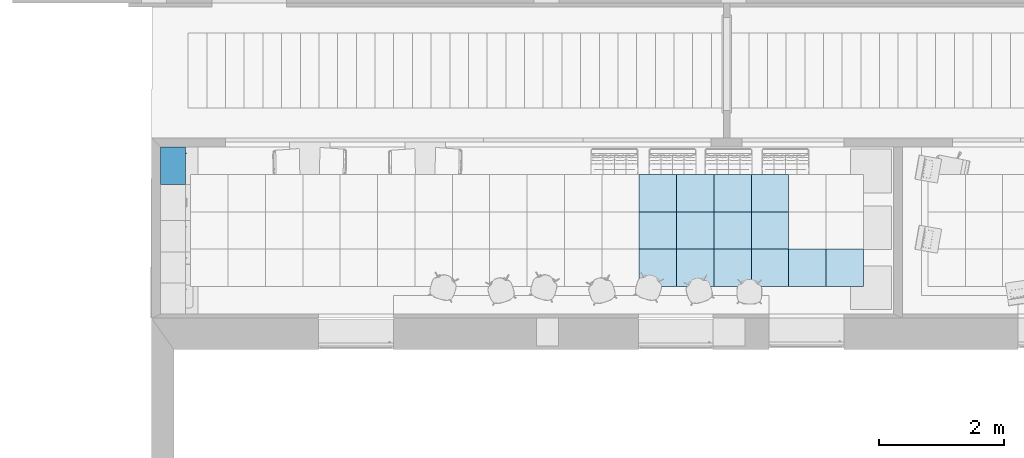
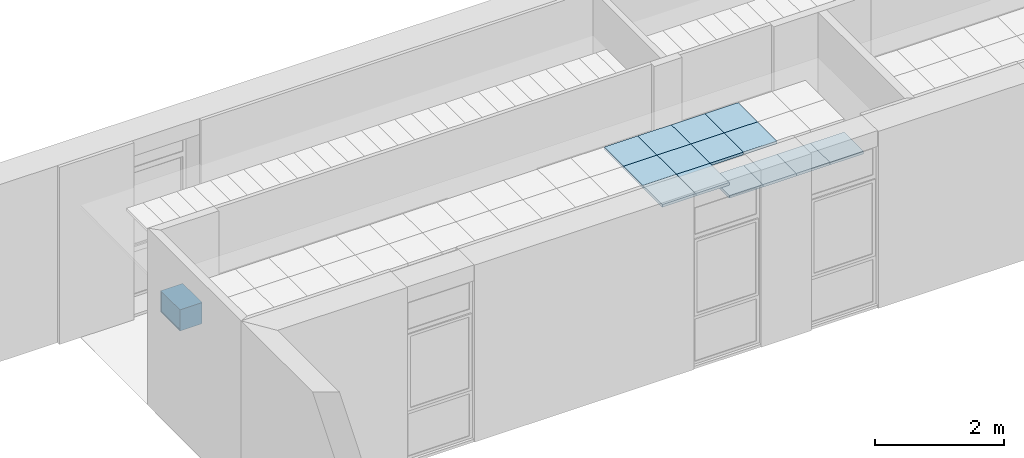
# One storey, part 19 of 68: 15 slabs.
"""IFC2X3 building model written with IfcOpenShell, lengths in millimetres."""

from ifc_helpers import new_model, entity, si_unit, converted_unit, derived_unit, money_unit, direction, frame, origin_with_axes, place, context, subcontext, project, spatial, polyline, outline, extrude, faceted_brep, source, transform, mapped, material, layer, layer_set, layer_usage, type_object, element, save


model = new_model("IFC2X3")

# Units and contexts
model_context = context("Model", 3, precision=0.01, world=origin_with_axes(), true_north=direction((0.0, 1.0)))
body_context = subcontext(model_context, "Body", "Model", "MODEL_VIEW")
ifc_project = project(units=[si_unit("LENGTHUNIT", "METRE", prefix="MILLI"), si_unit("AREAUNIT", "SQUARE_METRE"), si_unit("VOLUMEUNIT", "CUBIC_METRE"), converted_unit("PLANEANGLEUNIT", "DEGREE", entity("IfcPlaneAngleMeasure", 0.0174532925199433), si_unit("PLANEANGLEUNIT", "RADIAN"), dimensions=[0, 0, 0, 0, 0, 0, 0]), money_unit("USD"), converted_unit("TIMEUNIT", "Year", entity("IfcTimeMeasure", 31557600.0), si_unit("TIMEUNIT", "SECOND"), dimensions=[0, 0, 1, 0, 0, 0, 0]), si_unit("MASSUNIT", "GRAM", prefix="KILO"), si_unit("THERMODYNAMICTEMPERATUREUNIT", "DEGREE_CELSIUS"), si_unit("LUMINOUSINTENSITYUNIT", "LUMEN"), si_unit("ENERGYUNIT", "JOULE", prefix="MEGA"), derived_unit("THERMALCONDUCTANCEUNIT", [(si_unit("POWERUNIT", "WATT"), 1), (si_unit("LENGTHUNIT", "METRE"), -1), (si_unit("THERMODYNAMICTEMPERATUREUNIT", "KELVIN"), -1)]), derived_unit("SPECIFICHEATCAPACITYUNIT", [(si_unit("ENERGYUNIT", "JOULE"), 1), (si_unit("MASSUNIT", "GRAM", prefix="KILO"), -1), (si_unit("THERMODYNAMICTEMPERATUREUNIT", "KELVIN"), -1)]), derived_unit("MASSDENSITYUNIT", [(si_unit("MASSUNIT", "GRAM", prefix="KILO"), 1), (si_unit("VOLUMEUNIT", "CUBIC_METRE"), -1)])], contexts=[model_context])

# Site, building, storey
site_placement = place(None, origin_with_axes())
site = spatial("IfcSite", under=ifc_project, at=site_placement, Name="Sitio", CompositionType="ELEMENT")
building_placement = place(site_placement, origin_with_axes())
building = spatial("IfcBuilding", under=site, at=building_placement, Name="Construcción", CompositionType="ELEMENT")
storey_placement = place(building_placement, origin_with_axes())
storey = spatial("IfcBuildingStorey", under=building, at=storey_placement, Name="PLANTA 1ª", CompositionType="ELEMENT", Elevation=0.0)

# Slabs
slab_type_1 = type_object("IfcSlabType", Name="Armario Mural 27", PredefinedType="FLOOR")
shared_shape = source(origin_with_axes(), body_context, "Body", "Brep", [
    faceted_brep([(501.8682408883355, -397.999999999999, 1752.799038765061), (502.7101007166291, -397.999999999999, 1752.573463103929), (503.5000000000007, -397.999999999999, 1752.205127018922), (504.2139380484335, -397.999999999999, 1751.705222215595), (504.8302222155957, -397.999999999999, 1751.088938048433), (505.330127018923, -397.999999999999, 1750.375), (505.6984631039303, -397.999999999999, 1749.585100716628), (505.9240387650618, -397.999999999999, 1748.743240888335), (506.0000000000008, -397.999999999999, 1747.875), (505.9240387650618, -397.999999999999, 1747.006759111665), (505.6984631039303, -397.999999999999, 1746.164899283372), (505.330127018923, -397.999999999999, 1745.375), (504.8302222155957, -397.999999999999, 1744.661061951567), (504.2139380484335, -397.999999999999, 1744.044777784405), (503.5000000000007, -397.999999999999, 1743.544872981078), (502.7101007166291, -397.999999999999, 1743.17653689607), (501.8682408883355, -397.999999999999, 1742.950961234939), (501.0000000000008, -397.999999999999, 1742.875), (500.1317591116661, -397.999999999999, 1742.950961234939), (499.2898992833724, -397.999999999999, 1743.17653689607), (498.5000000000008, -397.999999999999, 1743.544872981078), (497.7860619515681, -397.999999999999, 1744.044777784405), (497.1697777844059, -397.999999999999, 1744.661061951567), (496.6698729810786, -397.999999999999, 1745.375), (496.3015368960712, -397.999999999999, 1746.164899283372), (496.0759612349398, -397.999999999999, 1747.006759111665), (496.0000000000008, -397.999999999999, 1747.875), (496.0759612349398, -397.999999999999, 1748.743240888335), (496.3015368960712, -397.999999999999, 1749.585100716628), (496.6698729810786, -397.999999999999, 1750.375), (497.1697777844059, -397.999999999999, 1751.088938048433), (497.7860619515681, -397.999999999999, 1751.705222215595), (498.5000000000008, -397.999999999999, 1752.205127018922), (499.2898992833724, -397.999999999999, 1752.573463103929), (500.1317591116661, -397.999999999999, 1752.799038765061), (501.0000000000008, -397.999999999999, 1752.875), (501.8682408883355, -422.999999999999, 1752.799038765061), (502.7101007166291, -422.999999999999, 1752.573463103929), (503.5000000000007, -422.999999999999, 1752.205127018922), (504.2139380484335, -422.999999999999, 1751.705222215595), (504.8302222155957, -422.999999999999, 1751.088938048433), (505.330127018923, -422.999999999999, 1750.375), (505.6984631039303, -422.999999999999, 1749.585100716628), (505.9240387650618, -422.999999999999, 1748.743240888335), (506.0000000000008, -422.999999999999, 1747.875), (505.9240387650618, -422.999999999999, 1747.006759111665), (505.6984631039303, -422.999999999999, 1746.164899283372), (505.330127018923, -422.999999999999, 1745.375), (504.8302222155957, -422.999999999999, 1744.661061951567), (504.2139380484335, -422.999999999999, 1744.044777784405), (503.5000000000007, -422.999999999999, 1743.544872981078), (502.7101007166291, -422.999999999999, 1743.17653689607), (501.8682408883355, -422.999999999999, 1742.950961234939), (501.0000000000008, -422.999999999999, 1742.875), (500.1317591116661, -422.999999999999, 1742.950961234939), (499.2898992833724, -422.999999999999, 1743.17653689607), (498.5000000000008, -422.999999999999, 1743.544872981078), (497.7860619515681, -422.999999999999, 1744.044777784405), (497.1697777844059, -422.999999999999, 1744.661061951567), (496.6698729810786, -422.999999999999, 1745.375), (496.3015368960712, -422.999999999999, 1746.164899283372), (496.0759612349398, -422.999999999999, 1747.006759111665), (496.0000000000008, -422.999999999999, 1747.875), (496.0759612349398, -422.999999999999, 1748.743240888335), (496.3015368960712, -422.999999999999, 1749.585100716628), (496.6698729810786, -422.999999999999, 1750.375), (497.1697777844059, -422.999999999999, 1751.088938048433), (497.7860619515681, -422.999999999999, 1751.705222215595), (498.5000000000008, -422.999999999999, 1752.205127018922), (499.2898992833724, -422.999999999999, 1752.573463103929), (500.1317591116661, -422.999999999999, 1752.799038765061), (501.0000000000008, -422.999999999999, 1752.875)], [[[0, 1, 2, 3, 4, 5, 6, 7, 8, 9, 10, 11, 12, 13, 14, 15, 16, 17, 18, 19, 20, 21, 22, 23, 24, 25, 26, 27, 28, 29, 30, 31, 32, 33, 34, 35]], [[1, 0, 36, 37]], [[2, 1, 37, 38]], [[3, 2, 38, 39]], [[4, 3, 39, 40]], [[5, 4, 40, 41]], [[6, 5, 41, 42]], [[7, 6, 42, 43]], [[8, 7, 43, 44]], [[9, 8, 44, 45]], [[10, 9, 45, 46]], [[11, 10, 46, 47]], [[12, 11, 47, 48]], [[13, 12, 48, 49]], [[14, 13, 49, 50]], [[15, 14, 50, 51]], [[16, 15, 51, 52]], [[17, 16, 52, 53]], [[18, 17, 53, 54]], [[19, 18, 54, 55]], [[20, 19, 55, 56]], [[21, 20, 56, 57]], [[22, 21, 57, 58]], [[23, 22, 58, 59]], [[24, 23, 59, 60]], [[25, 24, 60, 61]], [[26, 25, 61, 62]], [[27, 26, 62, 63]], [[28, 27, 63, 64]], [[29, 28, 64, 65]], [[30, 29, 65, 66]], [[31, 30, 66, 67]], [[32, 31, 67, 68]], [[33, 32, 68, 69]], [[34, 33, 69, 70]], [[35, 34, 70, 71]], [[0, 35, 71, 36]], [[36, 71, 70, 69, 68, 67, 66, 65, 64, 63, 62, 61, 60, 59, 58, 57, 56, 55, 54, 53, 52, 51, 50, 49, 48, 47, 46, 45, 44, 43, 42, 41, 40, 39, 38, 37]]]),
    faceted_brep([(501.8682408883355, -397.999999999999, 1649.200961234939), (501.0000000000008, -397.999999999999, 1649.125), (500.1317591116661, -397.999999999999, 1649.200961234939), (499.2898992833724, -397.999999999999, 1649.426536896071), (498.5000000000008, -397.999999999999, 1649.794872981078), (497.7860619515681, -397.999999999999, 1650.294777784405), (497.1697777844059, -397.999999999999, 1650.911061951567), (496.6698729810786, -397.999999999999, 1651.625), (496.3015368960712, -397.999999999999, 1652.414899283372), (496.0759612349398, -397.999999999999, 1653.256759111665), (496.0000000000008, -397.999999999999, 1654.125), (496.0759612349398, -397.999999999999, 1654.993240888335), (496.3015368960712, -397.999999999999, 1655.835100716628), (496.6698729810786, -397.999999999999, 1656.625), (497.1697777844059, -397.999999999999, 1657.338938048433), (497.7860619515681, -397.999999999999, 1657.955222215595), (498.5000000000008, -397.999999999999, 1658.455127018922), (499.2898992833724, -397.999999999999, 1658.823463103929), (500.1317591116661, -397.999999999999, 1659.049038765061), (501.0000000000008, -397.999999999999, 1659.125), (501.8682408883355, -397.999999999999, 1659.049038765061), (502.7101007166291, -397.999999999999, 1658.823463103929), (503.5000000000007, -397.999999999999, 1658.455127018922), (504.2139380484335, -397.999999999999, 1657.955222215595), (504.8302222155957, -397.999999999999, 1657.338938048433), (505.330127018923, -397.999999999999, 1656.625), (505.6984631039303, -397.999999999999, 1655.835100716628), (505.9240387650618, -397.999999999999, 1654.993240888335), (506.0000000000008, -397.999999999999, 1654.125), (505.9240387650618, -397.999999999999, 1653.256759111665), (505.6984631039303, -397.999999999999, 1652.414899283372), (505.330127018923, -397.999999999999, 1651.625), (504.8302222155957, -397.999999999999, 1650.911061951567), (504.2139380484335, -397.999999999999, 1650.294777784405), (503.5000000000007, -397.999999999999, 1649.794872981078), (502.7101007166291, -397.999999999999, 1649.426536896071), (501.8682408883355, -422.999999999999, 1649.200961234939), (501.0000000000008, -422.999999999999, 1649.125), (500.1317591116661, -422.999999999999, 1649.200961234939), (499.2898992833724, -422.999999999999, 1649.426536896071), (498.5000000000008, -422.999999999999, 1649.794872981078), (497.7860619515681, -422.999999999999, 1650.294777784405), (497.1697777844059, -422.999999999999, 1650.911061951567), (496.6698729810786, -422.999999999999, 1651.625), (496.3015368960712, -422.999999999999, 1652.414899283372), (496.0759612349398, -422.999999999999, 1653.256759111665), (496.0000000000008, -422.999999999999, 1654.125), (496.0759612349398, -422.999999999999, 1654.993240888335), (496.3015368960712, -422.999999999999, 1655.835100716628), (496.6698729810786, -422.999999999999, 1656.625), (497.1697777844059, -422.999999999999, 1657.338938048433), (497.7860619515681, -422.999999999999, 1657.955222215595), (498.5000000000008, -422.999999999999, 1658.455127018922), (499.2898992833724, -422.999999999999, 1658.823463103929), (500.1317591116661, -422.999999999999, 1659.049038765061), (501.0000000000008, -422.999999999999, 1659.125), (501.8682408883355, -422.999999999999, 1659.049038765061), (502.7101007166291, -422.999999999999, 1658.823463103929), (503.5000000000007, -422.999999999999, 1658.455127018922), (504.2139380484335, -422.999999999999, 1657.955222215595), (504.8302222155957, -422.999999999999, 1657.338938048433), (505.330127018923, -422.999999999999, 1656.625), (505.6984631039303, -422.999999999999, 1655.835100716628), (505.9240387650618, -422.999999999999, 1654.993240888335), (506.0000000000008, -422.999999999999, 1654.125), (505.9240387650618, -422.999999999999, 1653.256759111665), (505.6984631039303, -422.999999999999, 1652.414899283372), (505.330127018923, -422.999999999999, 1651.625), (504.8302222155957, -422.999999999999, 1650.911061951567), (504.2139380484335, -422.999999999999, 1650.294777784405), (503.5000000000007, -422.999999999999, 1649.794872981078), (502.7101007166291, -422.999999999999, 1649.426536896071)], [[[0, 1, 2, 3, 4, 5, 6, 7, 8, 9, 10, 11, 12, 13, 14, 15, 16, 17, 18, 19, 20, 21, 22, 23, 24, 25, 26, 27, 28, 29, 30, 31, 32, 33, 34, 35]], [[0, 36, 37, 1]], [[1, 37, 38, 2]], [[2, 38, 39, 3]], [[3, 39, 40, 4]], [[4, 40, 41, 5]], [[5, 41, 42, 6]], [[6, 42, 43, 7]], [[7, 43, 44, 8]], [[8, 44, 45, 9]], [[9, 45, 46, 10]], [[10, 46, 47, 11]], [[11, 47, 48, 12]], [[12, 48, 49, 13]], [[13, 49, 50, 14]], [[14, 50, 51, 15]], [[15, 51, 52, 16]], [[16, 52, 53, 17]], [[17, 53, 54, 18]], [[18, 54, 55, 19]], [[19, 55, 56, 20]], [[20, 56, 57, 21]], [[21, 57, 58, 22]], [[22, 58, 59, 23]], [[23, 59, 60, 24]], [[24, 60, 61, 25]], [[25, 61, 62, 26]], [[26, 62, 63, 27]], [[27, 63, 64, 28]], [[28, 64, 65, 29]], [[29, 65, 66, 30]], [[30, 66, 67, 31]], [[31, 67, 68, 32]], [[32, 68, 69, 33]], [[33, 69, 70, 34]], [[34, 70, 71, 35]], [[35, 71, 36, 0]], [[36, 71, 70, 69, 68, 67, 66, 65, 64, 63, 62, 61, 60, 59, 58, 57, 56, 55, 54, 53, 52, 51, 50, 49, 48, 47, 46, 45, 44, 43, 42, 41, 40, 39, 38, 37]]]),
    faceted_brep([(501.8682408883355, -418.0759612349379, 1626.0), (502.7101007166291, -418.3015368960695, 1626.0), (503.5000000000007, -418.6698729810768, 1626.0), (504.2139380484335, -419.1697777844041, 1626.0), (504.8302222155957, -419.7860619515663, 1626.0), (505.330127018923, -420.499999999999, 1626.0), (505.6984631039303, -421.2898992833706, 1626.0), (505.9240387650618, -422.1317591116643, 1626.0), (506.0000000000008, -422.999999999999, 1626.0), (505.9240387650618, -423.8682408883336, 1626.0), (505.6984631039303, -424.7101007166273, 1626.0), (505.330127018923, -425.499999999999, 1626.0), (504.8302222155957, -426.2139380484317, 1626.0), (504.2139380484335, -426.8302222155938, 1626.0), (503.5000000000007, -427.3301270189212, 1626.0), (502.7101007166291, -427.6984631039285, 1626.0), (501.8682408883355, -427.92403876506, 1626.0), (501.0000000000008, -427.999999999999, 1626.0), (500.1317591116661, -427.92403876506, 1626.0), (499.2898992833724, -427.6984631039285, 1626.0), (498.5000000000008, -427.3301270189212, 1626.0), (497.7860619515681, -426.8302222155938, 1626.0), (497.1697777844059, -426.2139380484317, 1626.0), (496.6698729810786, -425.499999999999, 1626.0), (496.3015368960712, -424.7101007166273, 1626.0), (496.0759612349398, -423.8682408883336, 1626.0), (496.0000000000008, -422.999999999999, 1626.0), (496.0759612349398, -422.1317591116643, 1626.0), (496.3015368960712, -421.2898992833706, 1626.0), (496.6698729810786, -420.499999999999, 1626.0), (497.1697777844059, -419.7860619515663, 1626.0), (497.7860619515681, -419.1697777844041, 1626.0), (498.5000000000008, -418.6698729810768, 1626.0), (499.2898992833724, -418.3015368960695, 1626.0), (500.1317591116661, -418.0759612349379, 1626.0), (501.0000000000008, -417.999999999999, 1626.0), (501.8682408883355, -418.0759612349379, 1776.0), (502.7101007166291, -418.3015368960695, 1776.0), (503.5000000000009, -418.6698729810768, 1776.0), (504.2139380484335, -419.1697777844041, 1776.0), (504.8302222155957, -419.7860619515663, 1776.0), (505.330127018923, -420.499999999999, 1776.0), (505.6984631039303, -421.2898992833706, 1776.0), (505.9240387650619, -422.1317591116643, 1776.0), (506.0000000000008, -422.999999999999, 1776.0), (505.9240387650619, -423.8682408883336, 1776.0), (505.6984631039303, -424.7101007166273, 1776.0), (505.330127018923, -425.499999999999, 1776.0), (504.8302222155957, -426.2139380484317, 1776.0), (504.2139380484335, -426.8302222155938, 1776.0), (503.5000000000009, -427.3301270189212, 1776.0), (502.7101007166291, -427.6984631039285, 1776.0), (501.8682408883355, -427.92403876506, 1776.0), (501.0000000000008, -427.999999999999, 1776.0), (500.1317591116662, -427.92403876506, 1776.0), (499.2898992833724, -427.6984631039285, 1776.0), (498.5000000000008, -427.3301270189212, 1776.0), (497.7860619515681, -426.8302222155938, 1776.0), (497.1697777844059, -426.2139380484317, 1776.0), (496.6698729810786, -425.499999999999, 1776.0), (496.3015368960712, -424.7101007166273, 1776.0), (496.0759612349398, -423.8682408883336, 1776.0), (496.0000000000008, -422.999999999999, 1776.0), (496.0759612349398, -422.1317591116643, 1776.0), (496.3015368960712, -421.2898992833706, 1776.0), (496.6698729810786, -420.499999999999, 1776.0), (497.1697777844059, -419.7860619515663, 1776.0), (497.7860619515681, -419.1697777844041, 1776.0), (498.5000000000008, -418.6698729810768, 1776.0), (499.2898992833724, -418.3015368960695, 1776.0), (500.1317591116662, -418.0759612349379, 1776.0), (501.0000000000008, -417.999999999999, 1776.0)], [[[0, 1, 2, 3, 4, 5, 6, 7, 8, 9, 10, 11, 12, 13, 14, 15, 16, 17, 18, 19, 20, 21, 22, 23, 24, 25, 26, 27, 28, 29, 30, 31, 32, 33, 34, 35]], [[1, 0, 36, 37]], [[2, 1, 37, 38]], [[3, 2, 38, 39]], [[4, 3, 39, 40]], [[5, 4, 40, 41]], [[6, 5, 41, 42]], [[7, 6, 42, 43]], [[8, 7, 43, 44]], [[9, 8, 44, 45]], [[10, 9, 45, 46]], [[11, 10, 46, 47]], [[12, 11, 47, 48]], [[13, 12, 48, 49]], [[14, 13, 49, 50]], [[15, 14, 50, 51]], [[16, 15, 51, 52]], [[17, 16, 52, 53]], [[18, 17, 53, 54]], [[19, 18, 54, 55]], [[20, 19, 55, 56]], [[21, 20, 56, 57]], [[22, 21, 57, 58]], [[23, 22, 58, 59]], [[24, 23, 59, 60]], [[25, 24, 60, 61]], [[26, 25, 61, 62]], [[27, 26, 62, 63]], [[28, 27, 63, 64]], [[29, 28, 64, 65]], [[30, 29, 65, 66]], [[31, 30, 66, 67]], [[32, 31, 67, 68]], [[33, 32, 68, 69]], [[34, 33, 69, 70]], [[35, 34, 70, 71]], [[0, 35, 71, 36]], [[36, 71, 70, 69, 68, 67, 66, 65, 64, 63, 62, 61, 60, 59, 58, 57, 56, 55, 54, 53, 52, 51, 50, 49, 48, 47, 46, 45, 44, 43, 42, 41, 40, 39, 38, 37]]]),
    faceted_brep([(1.0, -379.999999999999, 1501.0), (599.0000000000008, -379.999999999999, 1501.0), (599.0000000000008, -397.999999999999, 1501.0), (1.0, -397.999999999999, 1501.0), (1.0, -379.999999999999, 1899.0), (599.0000000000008, -379.999999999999, 1899.0), (599.0000000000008, -397.999999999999, 1899.0), (1.0, -397.999999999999, 1899.0)], [[[0, 1, 2, 3]], [[0, 4, 5, 1]], [[1, 5, 6, 2]], [[3, 2, 6, 7]], [[4, 0, 3, 7]], [[5, 4, 7, 6]]]),
    faceted_brep([(18.0, -379.999999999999, 1500.0), (582.0000000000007, -379.999999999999, 1500.0), (582.0000000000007, -379.999999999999, 1518.0), (18.0, -379.999999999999, 1518.0), (18.0, 0.0, 1500.0), (582.0000000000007, 0.0, 1500.0), (582.0000000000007, 0.0, 1518.0), (18.0, 0.0, 1518.0)], [[[0, 1, 2, 3]], [[0, 4, 5, 1]], [[1, 5, 6, 2]], [[3, 2, 6, 7]], [[4, 0, 3, 7]], [[5, 4, 7, 6]]]),
    faceted_brep([(18.0, -379.999999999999, 1882.0), (582.0000000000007, -379.999999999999, 1882.0), (582.0000000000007, -379.999999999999, 1900.0), (18.0, -379.999999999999, 1900.0), (18.0, 0.0, 1882.0), (582.0000000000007, 0.0, 1882.0), (582.0000000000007, 0.0, 1900.0), (18.0, 0.0, 1900.0)], [[[0, 1, 2, 3]], [[0, 4, 5, 1]], [[1, 5, 6, 2]], [[3, 2, 6, 7]], [[4, 0, 3, 7]], [[5, 4, 7, 6]]]),
    faceted_brep([(0.0, 0.0, 1500.0), (0.0, -379.999999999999, 1500.0), (0.0, -379.999999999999, 1900.0), (0.0, 0.0, 1900.0), (18.0, 0.0, 1500.0), (18.0, -379.999999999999, 1500.0), (18.0, -379.999999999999, 1900.0), (18.0, 0.0, 1900.0)], [[[0, 1, 2, 3]], [[0, 4, 5, 1]], [[1, 5, 6, 2]], [[3, 2, 6, 7]], [[4, 0, 3, 7]], [[5, 4, 7, 6]]]),
    faceted_brep([(600.0000000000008, -379.999999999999, 1500.0), (600.0000000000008, 0.0, 1500.0), (600.0000000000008, 0.0, 1900.0), (600.0000000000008, -379.999999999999, 1900.0), (582.0000000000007, -379.999999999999, 1500.0), (582.0000000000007, 0.0, 1500.0), (582.0000000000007, 0.0, 1900.0), (582.0000000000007, -379.999999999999, 1900.0)], [[[0, 1, 2, 3]], [[0, 4, 5, 1]], [[1, 5, 6, 2]], [[3, 2, 6, 7]], [[4, 0, 3, 7]], [[5, 4, 7, 6]]]),
    faceted_brep([(582.0000000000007, -9.0, 1518.0), (18.00000000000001, -9.0, 1518.0), (18.00000000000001, -9.0, 1882.0), (582.0000000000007, -9.0, 1882.0), (582.0000000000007, -18.0, 1518.0), (18.00000000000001, -18.0, 1518.0), (18.00000000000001, -18.0, 1882.0), (582.0000000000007, -18.0, 1882.0)], [[[0, 1, 2, 3]], [[0, 4, 5, 1]], [[1, 5, 6, 2]], [[3, 2, 6, 7]], [[4, 0, 3, 7]], [[5, 4, 7, 6]]]),
])
slab_1_placement = place(storey_placement, frame((-27904.84818028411, 954.853055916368, 303.6672087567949), z_axis=(0.0, 0.0, 1.0), x_axis=(0.0, 1.0, 0.0)))
element("IfcSlab", 1, at=slab_1_placement, inside=storey, type_object=slab_type_1, Name="60.20.50 Armari", PredefinedType="FLOOR", context=body_context, shape_type="MappedRepresentation", body=[
    mapped(shared_shape, transform((0.0, 0.0, 0.0))),
])
ifc_material = material(Name="ARQ_CE217_Armstrong 60x60")
ifc_layer = layer(ifc_material, 50.0, ventilated="UNKNOWN")
ifc_layer_set = layer_set([ifc_layer], Name="ARQ_CE217_Armstrong 60x60 50")
ifc_layer_usage_1 = layer_usage(ifc_layer_set, "AXIS3", "NEGATIVE", 50.0)
slab_type_2 = type_object("IfcSlabType", Name="ARQ_CE217_Armstrong 60x60 50", PredefinedType="NOTDEFINED")
slab_2_placement = place(storey_placement, frame((-18420.63976804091, 512.938616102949, 2500.0), z_axis=(0.0, 0.0, 1.0), x_axis=(1.0, 0.0, 0.0)))
element("IfcSlab", 2, at=slab_2_placement, inside=storey, type_object=slab_type_2, material=ifc_layer_usage_1, Name="SLA - 026", PredefinedType="NOTDEFINED", context=body_context, shape_type="SweptSolid", body=[
    extrude(outline(polyline([(0.0, 0.0), (600.0000000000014, 0.0), (600.0000000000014, 600.0000000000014), (0.0, 600.0000000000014), (0.0, 0.0)])), frame((0.0, 0.0, -50.0), z_axis=(0.0, 0.0, 1.0), x_axis=(1.0, 0.0, 0.0)), (0.0, 0.0, 1.0), 50.0),
])
ifc_layer_usage_2 = layer_usage(ifc_layer_set, "AXIS3", "NEGATIVE", 50.0)
slab_3_placement = place(storey_placement, frame((-18420.63976804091, -87.06138389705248, 2500.0), z_axis=(0.0, 0.0, 1.0), x_axis=(1.0, 0.0, 0.0)))
element("IfcSlab", 3, at=slab_3_placement, inside=storey, type_object=slab_type_2, material=ifc_layer_usage_2, Name="SLA - 026", PredefinedType="NOTDEFINED", context=body_context, shape_type="SweptSolid", body=[
    extrude(outline(polyline([(0.0, 0.0), (600.0000000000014, 0.0), (600.0000000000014, 600.0000000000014), (0.0, 600.0000000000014), (0.0, 0.0)])), frame((0.0, 0.0, -50.0), z_axis=(0.0, 0.0, 1.0), x_axis=(1.0, 0.0, 0.0)), (0.0, 0.0, 1.0), 50.0),
])
ifc_layer_usage_3 = layer_usage(ifc_layer_set, "AXIS3", "NEGATIVE", 50.0)
slab_4_placement = place(storey_placement, frame((-17220.63976804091, -687.0613838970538, 2250.0), z_axis=(0.0, 0.0, 1.0), x_axis=(1.0, 0.0, 0.0)))
element("IfcSlab", 4, at=slab_4_placement, inside=storey, type_object=slab_type_2, material=ifc_layer_usage_3, Name="SLA - 026", PredefinedType="NOTDEFINED", context=body_context, shape_type="SweptSolid", body=[
    extrude(outline(polyline([(0.0, 0.0), (599.9999999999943, 0.0), (599.9999999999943, 600.0000000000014), (0.0, 600.0000000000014), (0.0, 0.0)])), frame((0.0, 0.0, -50.0), z_axis=(0.0, 0.0, 1.0), x_axis=(1.0, 0.0, 0.0)), (0.0, 0.0, 1.0), 50.0),
])
ifc_layer_usage_4 = layer_usage(ifc_layer_set, "AXIS3", "NEGATIVE", 50.0)
slab_5_placement = place(storey_placement, frame((-17820.63976804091, -687.0613838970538, 2250.0), z_axis=(0.0, 0.0, 1.0), x_axis=(1.0, 0.0, 0.0)))
element("IfcSlab", 5, at=slab_5_placement, inside=storey, type_object=slab_type_2, material=ifc_layer_usage_4, Name="SLA - 026", PredefinedType="NOTDEFINED", context=body_context, shape_type="SweptSolid", body=[
    extrude(outline(polyline([(0.0, 0.0), (600.0000000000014, 0.0), (600.0000000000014, 600.0000000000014), (0.0, 600.0000000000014), (0.0, 0.0)])), frame((0.0, 0.0, -50.0), z_axis=(0.0, 0.0, 1.0), x_axis=(1.0, 0.0, 0.0)), (0.0, 0.0, 1.0), 50.0),
])
ifc_layer_usage_5 = layer_usage(ifc_layer_set, "AXIS3", "NEGATIVE", 50.0)
slab_6_placement = place(storey_placement, frame((-20220.63976804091, -87.06138389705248, 2500.0), z_axis=(0.0, 0.0, 1.0), x_axis=(1.0, 0.0, 0.0)))
element("IfcSlab", 6, at=slab_6_placement, inside=storey, type_object=slab_type_2, material=ifc_layer_usage_5, Name="SLA - 026", PredefinedType="NOTDEFINED", context=body_context, shape_type="SweptSolid", body=[
    extrude(outline(polyline([(0.0, 0.0), (600.0000000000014, 0.0), (600.0000000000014, 600.0000000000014), (0.0, 600.0000000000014), (0.0, 0.0)])), frame((0.0, 0.0, -50.0), z_axis=(0.0, 0.0, 1.0), x_axis=(1.0, 0.0, 0.0)), (0.0, 0.0, 1.0), 50.0),
])
ifc_layer_usage_6 = layer_usage(ifc_layer_set, "AXIS3", "NEGATIVE", 50.0)
slab_7_placement = place(storey_placement, frame((-18420.63976804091, -687.0613838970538, 2250.0), z_axis=(0.0, 0.0, 1.0), x_axis=(1.0, 0.0, 0.0)))
element("IfcSlab", 7, at=slab_7_placement, inside=storey, type_object=slab_type_2, material=ifc_layer_usage_6, Name="SLA - 026", PredefinedType="NOTDEFINED", context=body_context, shape_type="SweptSolid", body=[
    extrude(outline(polyline([(0.0, 0.0), (600.0000000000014, 0.0), (600.0000000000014, 600.0000000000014), (0.0, 600.0000000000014), (0.0, 0.0)])), frame((0.0, 0.0, -50.0), z_axis=(0.0, 0.0, 1.0), x_axis=(1.0, 0.0, 0.0)), (0.0, 0.0, 1.0), 50.0),
])
ifc_layer_usage_7 = layer_usage(ifc_layer_set, "AXIS3", "NEGATIVE", 50.0)
slab_8_placement = place(storey_placement, frame((-20220.63976804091, -687.0613838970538, 2500.0), z_axis=(0.0, 0.0, 1.0), x_axis=(1.0, 0.0, 0.0)))
element("IfcSlab", 8, at=slab_8_placement, inside=storey, type_object=slab_type_2, material=ifc_layer_usage_7, Name="SLA - 026", PredefinedType="NOTDEFINED", context=body_context, shape_type="SweptSolid", body=[
    extrude(outline(polyline([(0.0, 0.0), (600.0000000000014, 0.0), (600.0000000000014, 600.0000000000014), (0.0, 600.0000000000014), (0.0, 0.0)])), frame((0.0, 0.0, -50.0), z_axis=(0.0, 0.0, 1.0), x_axis=(1.0, 0.0, 0.0)), (0.0, 0.0, 1.0), 50.0),
])
ifc_layer_usage_8 = layer_usage(ifc_layer_set, "AXIS3", "NEGATIVE", 50.0)
slab_9_placement = place(storey_placement, frame((-19020.63976804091, -87.06138389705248, 2500.0), z_axis=(0.0, 0.0, 1.0), x_axis=(1.0, 0.0, 0.0)))
element("IfcSlab", 9, at=slab_9_placement, inside=storey, type_object=slab_type_2, material=ifc_layer_usage_8, Name="SLA - 026", PredefinedType="NOTDEFINED", context=body_context, shape_type="SweptSolid", body=[
    extrude(outline(polyline([(0.0, 0.0), (599.9999999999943, 0.0), (599.9999999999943, 600.0000000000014), (0.0, 600.0000000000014), (0.0, 0.0)])), frame((0.0, 0.0, -50.0), z_axis=(0.0, 0.0, 1.0), x_axis=(1.0, 0.0, 0.0)), (0.0, 0.0, 1.0), 50.0),
])
ifc_layer_usage_9 = layer_usage(ifc_layer_set, "AXIS3", "NEGATIVE", 50.0)
slab_10_placement = place(storey_placement, frame((-19620.63976804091, 512.938616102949, 2500.0), z_axis=(0.0, 0.0, 1.0), x_axis=(1.0, 0.0, 0.0)))
element("IfcSlab", 10, at=slab_10_placement, inside=storey, type_object=slab_type_2, material=ifc_layer_usage_9, Name="SLA - 026", PredefinedType="NOTDEFINED", context=body_context, shape_type="SweptSolid", body=[
    extrude(outline(polyline([(0.0, 0.0), (600.000000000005, 0.0), (600.000000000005, 600.0000000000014), (0.0, 600.0000000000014), (0.0, 0.0)])), frame((0.0, 0.0, -50.0), z_axis=(0.0, 0.0, 1.0), x_axis=(1.0, 0.0, 0.0)), (0.0, 0.0, 1.0), 50.0),
])
ifc_layer_usage_10 = layer_usage(ifc_layer_set, "AXIS3", "NEGATIVE", 50.0)
slab_11_placement = place(storey_placement, frame((-19620.63976804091, -87.06138389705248, 2500.0), z_axis=(0.0, 0.0, 1.0), x_axis=(1.0, 0.0, 0.0)))
element("IfcSlab", 11, at=slab_11_placement, inside=storey, type_object=slab_type_2, material=ifc_layer_usage_10, Name="SLA - 026", PredefinedType="NOTDEFINED", context=body_context, shape_type="SweptSolid", body=[
    extrude(outline(polyline([(0.0, 0.0), (600.000000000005, 0.0), (600.000000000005, 600.0000000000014), (0.0, 600.0000000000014), (0.0, 0.0)])), frame((0.0, 0.0, -50.0), z_axis=(0.0, 0.0, 1.0), x_axis=(1.0, 0.0, 0.0)), (0.0, 0.0, 1.0), 50.0),
])
ifc_layer_usage_11 = layer_usage(ifc_layer_set, "AXIS3", "NEGATIVE", 50.0)
slab_12_placement = place(storey_placement, frame((-19020.63976804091, -687.0613838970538, 2250.0), z_axis=(0.0, 0.0, 1.0), x_axis=(1.0, 0.0, 0.0)))
element("IfcSlab", 12, at=slab_12_placement, inside=storey, type_object=slab_type_2, material=ifc_layer_usage_11, Name="SLA - 026", PredefinedType="NOTDEFINED", context=body_context, shape_type="SweptSolid", body=[
    extrude(outline(polyline([(0.0, 0.0), (599.9999999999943, 0.0), (599.9999999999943, 600.0000000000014), (0.0, 600.0000000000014), (0.0, 0.0)])), frame((0.0, 0.0, -50.0), z_axis=(0.0, 0.0, 1.0), x_axis=(1.0, 0.0, 0.0)), (0.0, 0.0, 1.0), 50.0),
])
ifc_layer_usage_12 = layer_usage(ifc_layer_set, "AXIS3", "NEGATIVE", 50.0)
slab_13_placement = place(storey_placement, frame((-19620.63976804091, -687.0613838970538, 2500.0), z_axis=(0.0, 0.0, 1.0), x_axis=(1.0, 0.0, 0.0)))
element("IfcSlab", 13, at=slab_13_placement, inside=storey, type_object=slab_type_2, material=ifc_layer_usage_12, Name="SLA - 026", PredefinedType="NOTDEFINED", context=body_context, shape_type="SweptSolid", body=[
    extrude(outline(polyline([(0.0, 0.0), (600.000000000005, 0.0), (600.000000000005, 600.0000000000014), (0.0, 600.0000000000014), (0.0, 0.0)])), frame((0.0, 0.0, -50.0), z_axis=(0.0, 0.0, 1.0), x_axis=(1.0, 0.0, 0.0)), (0.0, 0.0, 1.0), 50.0),
])
ifc_layer_usage_13 = layer_usage(ifc_layer_set, "AXIS3", "NEGATIVE", 50.0)
slab_14_placement = place(storey_placement, frame((-20220.63976804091, 512.938616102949, 2500.0), z_axis=(0.0, 0.0, 1.0), x_axis=(1.0, 0.0, 0.0)))
element("IfcSlab", 14, at=slab_14_placement, inside=storey, type_object=slab_type_2, material=ifc_layer_usage_13, Name="SLA - 026", PredefinedType="NOTDEFINED", context=body_context, shape_type="SweptSolid", body=[
    extrude(outline(polyline([(0.0, 0.0), (600.0000000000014, 0.0), (600.0000000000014, 600.0000000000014), (0.0, 600.0000000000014), (0.0, 0.0)])), frame((0.0, 0.0, -50.0), z_axis=(0.0, 0.0, 1.0), x_axis=(1.0, 0.0, 0.0)), (0.0, 0.0, 1.0), 50.0),
])
ifc_layer_usage_14 = layer_usage(ifc_layer_set, "AXIS3", "NEGATIVE", 50.0)
slab_15_placement = place(storey_placement, frame((-19020.63976804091, 512.938616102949, 2500.0), z_axis=(0.0, 0.0, 1.0), x_axis=(1.0, 0.0, 0.0)))
element("IfcSlab", 15, at=slab_15_placement, inside=storey, type_object=slab_type_2, material=ifc_layer_usage_14, Name="SLA - 026", PredefinedType="NOTDEFINED", context=body_context, shape_type="SweptSolid", body=[
    extrude(outline(polyline([(0.0, 0.0), (599.9999999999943, 0.0), (599.9999999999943, 600.0000000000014), (0.0, 600.0000000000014), (0.0, 0.0)])), frame((0.0, 0.0, -50.0), z_axis=(0.0, 0.0, 1.0), x_axis=(1.0, 0.0, 0.0)), (0.0, 0.0, 1.0), 50.0),
])

save(model, "model.ifc")
